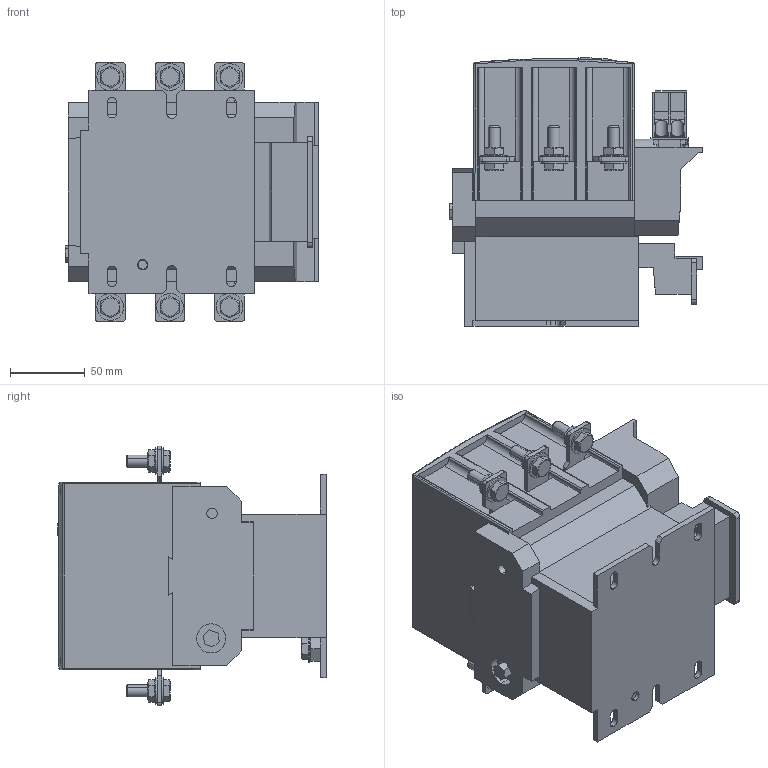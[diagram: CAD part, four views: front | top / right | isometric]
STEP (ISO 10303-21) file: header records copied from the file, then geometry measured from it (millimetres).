
FILE_DESCRIPTION (( 'STEP AP203' ), '1' );
FILE_NAME ('ﾏﾌﾋ-6100.STEP', '2021-11-09T10:30:39', ( '' ), ( '' ), 'SwSTEP 2.0', 'SolidWorks 2018', '' );
FILE_SCHEMA (( 'CONFIG_CONTROL_DESIGN' ));
Length unit declared in the file: millimetre
Products named in the file (7): Áîëò Ì8õ25; Ãàéêà Ì8; ﾏﾌﾋ-6100; ﾏﾌﾋ-6100_1; ﾏﾊﾋ-11; ﾘ琺矜 ﾑ.8; Áîëò Ì8õ10
Assembly tree (28 placements, depth 2):
  ﾏﾌﾋ-6100
    ﾏﾌﾋ-6100_1
    ﾏﾊﾋ-11
    ﾘ琺矜 ﾑ.8  x13
    Áîëò Ì8õ10
    Áîëò Ì8õ25  x6
    Ãàéêà Ì8  x6
Bounding box: 170.2 x 180.24 x 174 mm (x, y, z)
Volume: 2471215 mm3; surface area: 204899.2 mm2
Topology: 28 solids, 28 shells, 1332 faces, 3529 edges, 2318 vertices
Faces by surface type: plane 783, bspline 241, cylinder 210, cone 80, torus 14, sphere 4
Entity records: 59156 total; most frequent: CARTESIAN_POINT 31870, ORIENTED_EDGE 5970, DIRECTION 4368, EDGE_CURVE 2985, VERTEX_POINT 1972, VECTOR 1966, LINE 1966, AXIS2_PLACEMENT_3D 1201
